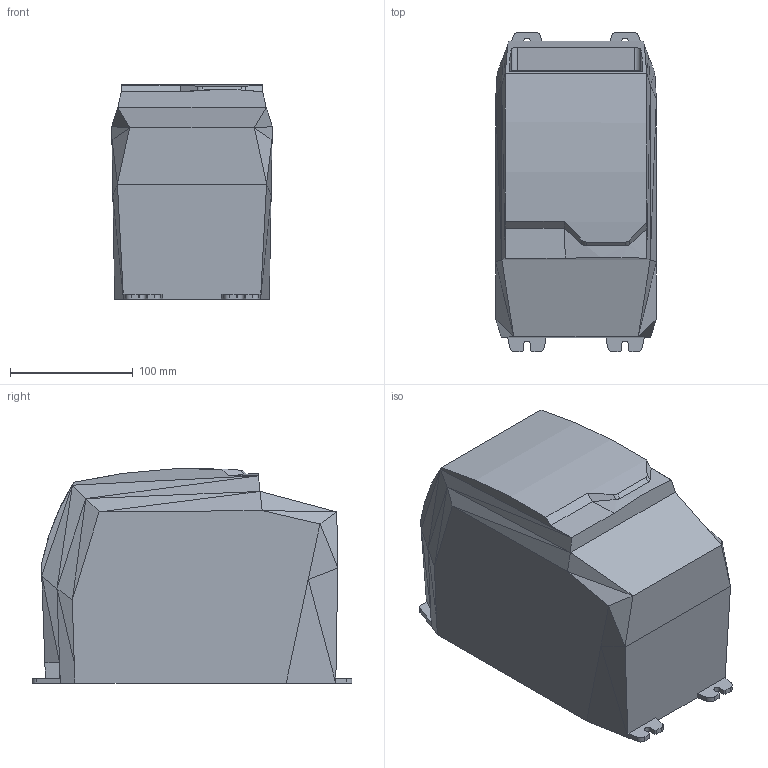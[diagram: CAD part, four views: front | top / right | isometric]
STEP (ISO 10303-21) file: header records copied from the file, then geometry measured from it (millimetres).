
FILE_DESCRIPTION (( 'STEP AP214' ), '1' );
FILE_NAME ('E2 Size 3 IP20 - basic model.STEP', '2012-08-07T12:58:28', ( 'Dell' ), ( 'Microsoft' ), 'SwSTEP 2.0', 'SolidWorks 2012', '' );
FILE_SCHEMA (( 'AUTOMOTIVE_DESIGN' ));
Length unit declared in the file: millimetre
Products named in the file (1): E2 Size 3 IP20 - basic model
Bounding box: 131.07 x 261 x 174.69 mm (x, y, z)
Volume: 4825546.1 mm3; surface area: 176061.4 mm2
Topology: 1 solids, 1 shells, 138 faces, 343 edges, 208 vertices
Faces by surface type: plane 110, cylinder 18, bspline 10
Entity records: 4392 total; most frequent: CARTESIAN_POINT 1181, ORIENTED_EDGE 686, DIRECTION 599, EDGE_CURVE 343, VECTOR 281, LINE 281, VERTEX_POINT 208, AXIS2_PLACEMENT_3D 159
